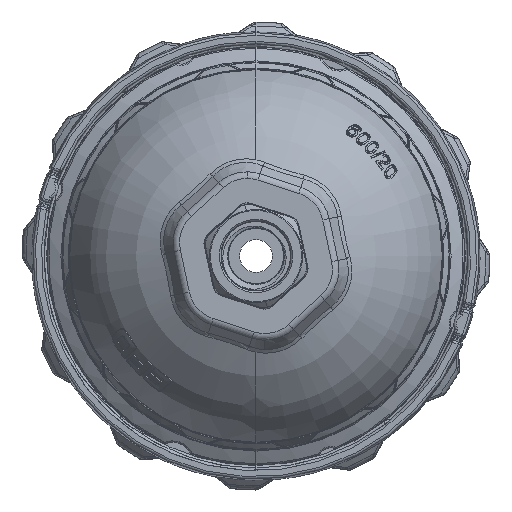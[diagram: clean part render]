
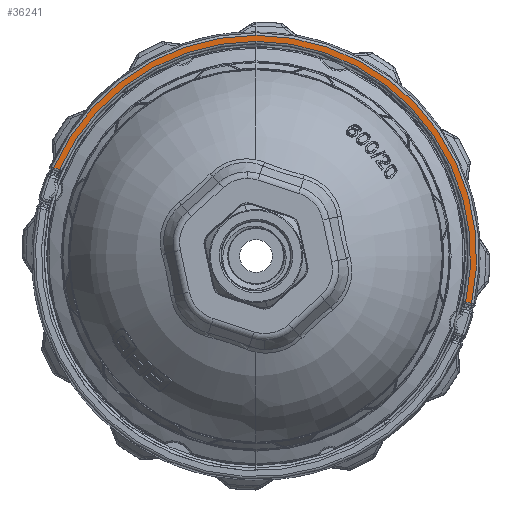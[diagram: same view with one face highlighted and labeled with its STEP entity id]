
A CAD part, front view. The second image highlights one B-rep face of the part: STEP entity #36241.
In plain terms, the highlighted planar face has unit normal (0, -1, 0).
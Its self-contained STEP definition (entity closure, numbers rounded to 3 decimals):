
#4462 = TOROIDAL_SURFACE('',#4463,42.748,0.508);
#4463 = AXIS2_PLACEMENT_3D('',#4464,#4465,#4466);
#4464 = CARTESIAN_POINT('',(0.,209.398,0.));
#4465 = DIRECTION('',(0.,1.,0.));
#4466 = DIRECTION('',(0.,0.,1.));
#4487 = VERTEX_POINT('',#4488);
#4488 = CARTESIAN_POINT('',(0.,208.89,42.748));
#4503 = TOROIDAL_SURFACE('',#4504,42.748,0.508);
#4504 = AXIS2_PLACEMENT_3D('',#4505,#4506,#4507);
#4505 = CARTESIAN_POINT('',(0.,209.398,0.));
#4506 = DIRECTION('',(0.,1.,0.));
#4507 = DIRECTION('',(0.,0.,1.));
#4515 = EDGE_CURVE('',#4516,#4487,#4518,.T.);
#4516 = VERTEX_POINT('',#4517);
#4517 = CARTESIAN_POINT('',(-39.139,208.89,17.192));
#4518 = SURFACE_CURVE('',#4519,(#4524,#4531),.PCURVE_S1.);
#4519 = CIRCLE('',#4520,42.748);
#4520 = AXIS2_PLACEMENT_3D('',#4521,#4522,#4523);
#4521 = CARTESIAN_POINT('',(0.,208.89,0.));
#4522 = DIRECTION('',(0.,1.,0.));
#4523 = DIRECTION('',(0.,0.,1.));
#4524 = PCURVE('',#4462,#4525);
#4525 = DEFINITIONAL_REPRESENTATION('',(#4526),#4530);
#4526 = LINE('',#4527,#4528);
#4527 = CARTESIAN_POINT('',(0.,4.712));
#4528 = VECTOR('',#4529,1.);
#4529 = DIRECTION('',(1.,0.));
#4530 = ( GEOMETRIC_REPRESENTATION_CONTEXT(2) 
PARAMETRIC_REPRESENTATION_CONTEXT() REPRESENTATION_CONTEXT('2D SPACE',''
  ) );
#4531 = PCURVE('',#4532,#4537);
#4532 = PLANE('',#4533);
#4533 = AXIS2_PLACEMENT_3D('',#4534,#4535,#4536);
#4534 = CARTESIAN_POINT('',(0.,208.89,0.));
#4535 = DIRECTION('',(0.,1.,0.));
#4536 = DIRECTION('',(0.,0.,1.));
#4537 = DEFINITIONAL_REPRESENTATION('',(#4538),#4542);
#4538 = CIRCLE('',#4539,42.748);
#4539 = AXIS2_PLACEMENT_2D('',#4540,#4541);
#4540 = CARTESIAN_POINT('',(0.,0.));
#4541 = DIRECTION('',(1.,0.));
#4542 = ( GEOMETRIC_REPRESENTATION_CONTEXT(2) 
PARAMETRIC_REPRESENTATION_CONTEXT() REPRESENTATION_CONTEXT('2D SPACE',''
  ) );
#24503 = EDGE_CURVE('',#24504,#24506,#24508,.T.);
#24504 = VERTEX_POINT('',#24505);
#24505 = CARTESIAN_POINT('',(0.,208.89,43.959));
#24506 = VERTEX_POINT('',#24507);
#24507 = CARTESIAN_POINT('',(-40.296,208.89,17.568));
#24508 = SURFACE_CURVE('',#24509,(#24514,#24526),.PCURVE_S1.);
#24509 = CIRCLE('',#24510,43.959);
#24510 = AXIS2_PLACEMENT_3D('',#24511,#24512,#24513);
#24511 = CARTESIAN_POINT('',(0.,208.89,0.));
#24512 = DIRECTION('',(0.,-1.,0.));
#24513 = DIRECTION('',(0.,0.,1.));
#24514 = PCURVE('',#24515,#24520);
#24515 = TOROIDAL_SURFACE('',#24516,43.959,0.508);
#24516 = AXIS2_PLACEMENT_3D('',#24517,#24518,#24519);
#24517 = CARTESIAN_POINT('',(0.,209.398,0.));
#24518 = DIRECTION('',(0.,1.,0.));
#24519 = DIRECTION('',(0.,0.,1.));
#24520 = DEFINITIONAL_REPRESENTATION('',(#24521),#24525);
#24521 = LINE('',#24522,#24523);
#24522 = CARTESIAN_POINT('',(6.283,4.712));
#24523 = VECTOR('',#24524,1.);
#24524 = DIRECTION('',(-1.,0.));
#24525 = ( GEOMETRIC_REPRESENTATION_CONTEXT(2) 
PARAMETRIC_REPRESENTATION_CONTEXT() REPRESENTATION_CONTEXT('2D SPACE',''
  ) );
#24526 = PCURVE('',#4532,#24527);
#24527 = DEFINITIONAL_REPRESENTATION('',(#24528),#24536);
#24528 = ( BOUNDED_CURVE() B_SPLINE_CURVE(2,(#24529,#24530,#24531,#24532
    ,#24533,#24534,#24535),.UNSPECIFIED.,.T.,.F.) 
B_SPLINE_CURVE_WITH_KNOTS((1,2,2,2,2,1),(-2.094,0.,
    2.094,4.189,6.283,8.378),
.UNSPECIFIED.) CURVE() GEOMETRIC_REPRESENTATION_ITEM() 
RATIONAL_B_SPLINE_CURVE((1.,0.5,1.,0.5,1.,0.5,1.)) REPRESENTATION_ITEM(
  '') );
#24529 = CARTESIAN_POINT('',(43.959,0.));
#24530 = CARTESIAN_POINT('',(43.959,-76.14));
#24531 = CARTESIAN_POINT('',(-21.98,-38.07));
#24532 = CARTESIAN_POINT('',(-87.919,0.));
#24533 = CARTESIAN_POINT('',(-21.98,38.07));
#24534 = CARTESIAN_POINT('',(43.959,76.14));
#24535 = CARTESIAN_POINT('',(43.959,0.));
#24536 = ( GEOMETRIC_REPRESENTATION_CONTEXT(2) 
PARAMETRIC_REPRESENTATION_CONTEXT() REPRESENTATION_CONTEXT('2D SPACE',''
  ) );
#24555 = TOROIDAL_SURFACE('',#24556,43.959,0.508);
#24556 = AXIS2_PLACEMENT_3D('',#24557,#24558,#24559);
#24557 = CARTESIAN_POINT('',(0.,209.398,0.));
#24558 = DIRECTION('',(0.,1.,0.));
#24559 = DIRECTION('',(0.,0.,1.));
#36241 = ADVANCED_FACE('',(#36242),#4532,.F.);
#36242 = FACE_BOUND('',#36243,.T.);
#36243 = EDGE_LOOP('',(#36244,#36245,#36269,#36297,#36323,#36324));
#36244 = ORIENTED_EDGE('',*,*,#4515,.T.);
#36245 = ORIENTED_EDGE('',*,*,#36246,.T.);
#36246 = EDGE_CURVE('',#4487,#36247,#36249,.T.);
#36247 = VERTEX_POINT('',#36248);
#36248 = CARTESIAN_POINT('',(41.769,208.89,-9.096));
#36249 = SURFACE_CURVE('',#36250,(#36255,#36262),.PCURVE_S1.);
#36250 = CIRCLE('',#36251,42.748);
#36251 = AXIS2_PLACEMENT_3D('',#36252,#36253,#36254);
#36252 = CARTESIAN_POINT('',(0.,208.89,0.));
#36253 = DIRECTION('',(0.,1.,0.));
#36254 = DIRECTION('',(0.,0.,1.));
#36255 = PCURVE('',#4532,#36256);
#36256 = DEFINITIONAL_REPRESENTATION('',(#36257),#36261);
#36257 = CIRCLE('',#36258,42.748);
#36258 = AXIS2_PLACEMENT_2D('',#36259,#36260);
#36259 = CARTESIAN_POINT('',(0.,0.));
#36260 = DIRECTION('',(1.,0.));
#36261 = ( GEOMETRIC_REPRESENTATION_CONTEXT(2) 
PARAMETRIC_REPRESENTATION_CONTEXT() REPRESENTATION_CONTEXT('2D SPACE',''
  ) );
#36262 = PCURVE('',#4503,#36263);
#36263 = DEFINITIONAL_REPRESENTATION('',(#36264),#36268);
#36264 = LINE('',#36265,#36266);
#36265 = CARTESIAN_POINT('',(0.,4.712));
#36266 = VECTOR('',#36267,1.);
#36267 = DIRECTION('',(1.,0.));
#36268 = ( GEOMETRIC_REPRESENTATION_CONTEXT(2) 
PARAMETRIC_REPRESENTATION_CONTEXT() REPRESENTATION_CONTEXT('2D SPACE',''
  ) );
#36269 = ORIENTED_EDGE('',*,*,#36270,.T.);
#36270 = EDGE_CURVE('',#36247,#36271,#36273,.T.);
#36271 = VERTEX_POINT('',#36272);
#36272 = CARTESIAN_POINT('',(42.927,208.89,-9.472));
#36273 = SURFACE_CURVE('',#36274,(#36278,#36285),.PCURVE_S1.);
#36274 = LINE('',#36275,#36276);
#36275 = CARTESIAN_POINT('',(42.97,208.89,-9.486));
#36276 = VECTOR('',#36277,1.);
#36277 = DIRECTION('',(0.951,0.,-0.309));
#36278 = PCURVE('',#4532,#36279);
#36279 = DEFINITIONAL_REPRESENTATION('',(#36280),#36284);
#36280 = LINE('',#36281,#36282);
#36281 = CARTESIAN_POINT('',(-9.486,42.97));
#36282 = VECTOR('',#36283,1.);
#36283 = DIRECTION('',(-0.309,0.951));
#36284 = ( GEOMETRIC_REPRESENTATION_CONTEXT(2) 
PARAMETRIC_REPRESENTATION_CONTEXT() REPRESENTATION_CONTEXT('2D SPACE',''
  ) );
#36285 = PCURVE('',#36286,#36291);
#36286 = CYLINDRICAL_SURFACE('',#36287,0.508);
#36287 = AXIS2_PLACEMENT_3D('',#36288,#36289,#36290);
#36288 = CARTESIAN_POINT('',(1.315,209.398,4.048));
#36289 = DIRECTION('',(0.951,0.,-0.309));
#36290 = DIRECTION('',(-0.309,0.,-0.951));
#36291 = DEFINITIONAL_REPRESENTATION('',(#36292),#36296);
#36292 = LINE('',#36293,#36294);
#36293 = CARTESIAN_POINT('',(4.712,43.799));
#36294 = VECTOR('',#36295,1.);
#36295 = DIRECTION('',(0.,1.));
#36296 = ( GEOMETRIC_REPRESENTATION_CONTEXT(2) 
PARAMETRIC_REPRESENTATION_CONTEXT() REPRESENTATION_CONTEXT('2D SPACE',''
  ) );
#36297 = ORIENTED_EDGE('',*,*,#36298,.T.);
#36298 = EDGE_CURVE('',#36271,#24504,#36299,.T.);
#36299 = SURFACE_CURVE('',#36300,(#36305,#36316),.PCURVE_S1.);
#36300 = CIRCLE('',#36301,43.959);
#36301 = AXIS2_PLACEMENT_3D('',#36302,#36303,#36304);
#36302 = CARTESIAN_POINT('',(0.,208.89,0.));
#36303 = DIRECTION('',(0.,-1.,0.));
#36304 = DIRECTION('',(0.,0.,1.));
#36305 = PCURVE('',#4532,#36306);
#36306 = DEFINITIONAL_REPRESENTATION('',(#36307),#36315);
#36307 = ( BOUNDED_CURVE() B_SPLINE_CURVE(2,(#36308,#36309,#36310,#36311
    ,#36312,#36313,#36314),.UNSPECIFIED.,.T.,.F.) 
B_SPLINE_CURVE_WITH_KNOTS((1,2,2,2,2,1),(-2.094,0.,
    2.094,4.189,6.283,8.378),
.UNSPECIFIED.) CURVE() GEOMETRIC_REPRESENTATION_ITEM() 
RATIONAL_B_SPLINE_CURVE((1.,0.5,1.,0.5,1.,0.5,1.)) REPRESENTATION_ITEM(
  '') );
#36308 = CARTESIAN_POINT('',(43.959,0.));
#36309 = CARTESIAN_POINT('',(43.959,-76.14));
#36310 = CARTESIAN_POINT('',(-21.98,-38.07));
#36311 = CARTESIAN_POINT('',(-87.919,0.));
#36312 = CARTESIAN_POINT('',(-21.98,38.07));
#36313 = CARTESIAN_POINT('',(43.959,76.14));
#36314 = CARTESIAN_POINT('',(43.959,0.));
#36315 = ( GEOMETRIC_REPRESENTATION_CONTEXT(2) 
PARAMETRIC_REPRESENTATION_CONTEXT() REPRESENTATION_CONTEXT('2D SPACE',''
  ) );
#36316 = PCURVE('',#24555,#36317);
#36317 = DEFINITIONAL_REPRESENTATION('',(#36318),#36322);
#36318 = LINE('',#36319,#36320);
#36319 = CARTESIAN_POINT('',(6.283,4.712));
#36320 = VECTOR('',#36321,1.);
#36321 = DIRECTION('',(-1.,0.));
#36322 = ( GEOMETRIC_REPRESENTATION_CONTEXT(2) 
PARAMETRIC_REPRESENTATION_CONTEXT() REPRESENTATION_CONTEXT('2D SPACE',''
  ) );
#36323 = ORIENTED_EDGE('',*,*,#24503,.T.);
#36324 = ORIENTED_EDGE('',*,*,#36325,.T.);
#36325 = EDGE_CURVE('',#24506,#4516,#36326,.T.);
#36326 = SURFACE_CURVE('',#36327,(#36331,#36338),.PCURVE_S1.);
#36327 = LINE('',#36328,#36329);
#36328 = CARTESIAN_POINT('',(-39.183,208.89,17.207));
#36329 = VECTOR('',#36330,1.);
#36330 = DIRECTION('',(0.951,0.,-0.309));
#36331 = PCURVE('',#4532,#36332);
#36332 = DEFINITIONAL_REPRESENTATION('',(#36333),#36337);
#36333 = LINE('',#36334,#36335);
#36334 = CARTESIAN_POINT('',(17.207,-39.183));
#36335 = VECTOR('',#36336,1.);
#36336 = DIRECTION('',(-0.309,0.951));
#36337 = ( GEOMETRIC_REPRESENTATION_CONTEXT(2) 
PARAMETRIC_REPRESENTATION_CONTEXT() REPRESENTATION_CONTEXT('2D SPACE',''
  ) );
#36338 = PCURVE('',#36339,#36344);
#36339 = CYLINDRICAL_SURFACE('',#36340,0.508);
#36340 = AXIS2_PLACEMENT_3D('',#36341,#36342,#36343);
#36341 = CARTESIAN_POINT('',(1.315,209.398,4.048));
#36342 = DIRECTION('',(0.951,0.,-0.309));
#36343 = DIRECTION('',(-0.309,0.,-0.951));
#36344 = DEFINITIONAL_REPRESENTATION('',(#36345),#36349);
#36345 = LINE('',#36346,#36347);
#36346 = CARTESIAN_POINT('',(4.712,-42.583));
#36347 = VECTOR('',#36348,1.);
#36348 = DIRECTION('',(0.,1.));
#36349 = ( GEOMETRIC_REPRESENTATION_CONTEXT(2) 
PARAMETRIC_REPRESENTATION_CONTEXT() REPRESENTATION_CONTEXT('2D SPACE',''
  ) );
